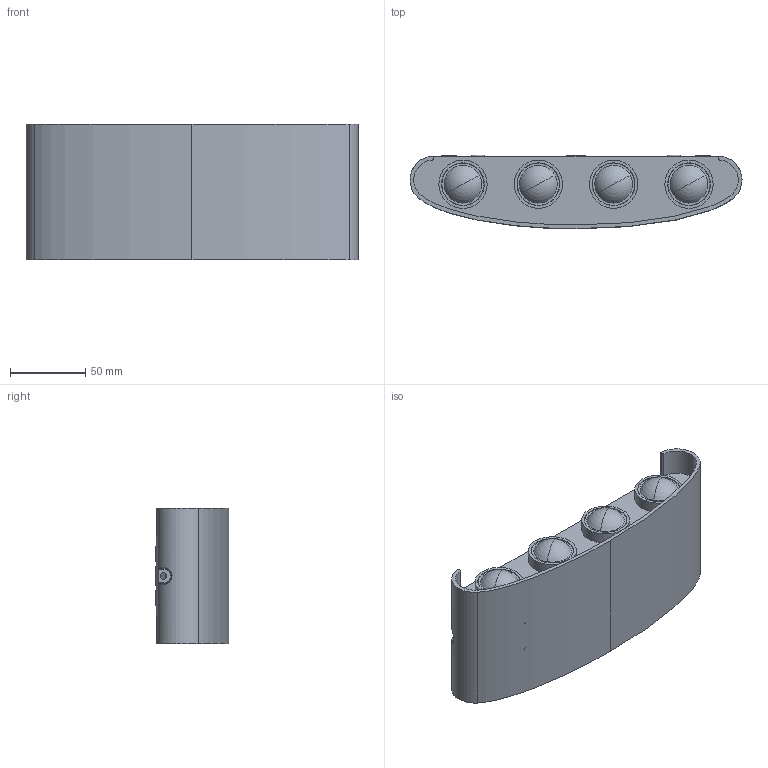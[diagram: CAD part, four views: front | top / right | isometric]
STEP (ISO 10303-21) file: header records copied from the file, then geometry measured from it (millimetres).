
FILE_DESCRIPTION(('CATIA V5 STEP Exchange','CAx-IF Rec.Pracs.--- Model Styling and Organization---1.4--- 2014-01-23','CAx-IF Rec.Pracs.---3D Tessellated Data Validation Properties---0.5---2014-09-14'),'2;1');
FILE_NAME('G:\GaaPro\luo\5.待开发项目\1.壁灯\GW-5140\GW-5140\GW-5140.stp','2025-11-18T06:00:36+00:00',('none'),('none'),'CATIA Version 5-6 Release 2018','CATIA V5 STEP AP242','none');
FILE_SCHEMA(('AP242_MANAGED_MODEL_BASED_3D_ENGINEERING_MIM_LF {1 0 10303 442 1 1 4}'));
Length unit declared in the file: millimetre
Products named in the file (8): 产品1; 28透镜; 胶塞.2; 产品2; 灯体; 后盖.1; 防水圈; 驱动
Assembly tree (14 placements, depth 3):
  产品1
    28透镜  x8
    胶塞.2
    产品2
      灯体
      后盖.1
      防水圈
    驱动
Bounding box: 220.33 x 48.8 x 90 mm (x, y, z)
Volume: 320578.6 mm3; surface area: 157220.9 mm2
Topology: 13 solids, 13 shells, 661 faces, 1625 edges, 1046 vertices
Faces by surface type: cylinder 313, plane 241, torus 43, bspline 20, sphere 16, cone 16, extrusion 12
Entity records: 18657 total; most frequent: CARTESIAN_POINT 4761, ORIENTED_EDGE 3066, DIRECTION 2230, EDGE_CURVE 1533, AXIS2_PLACEMENT_3D 1081, VERTEX_POINT 997, EDGE_LOOP 766, VECTOR 754
